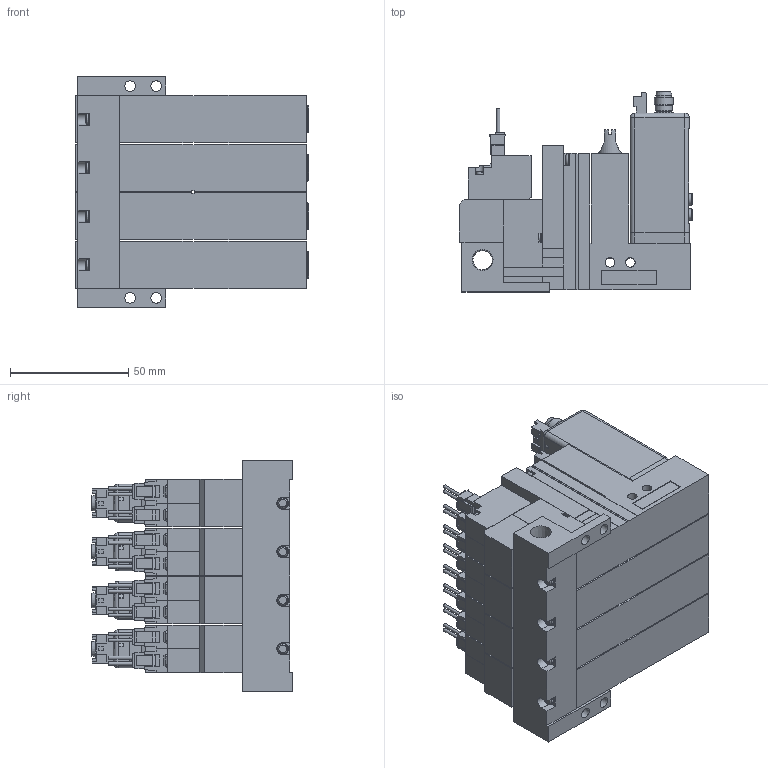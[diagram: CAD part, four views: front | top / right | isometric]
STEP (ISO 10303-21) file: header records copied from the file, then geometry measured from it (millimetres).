
FILE_DESCRIPTION(('STEP AP203'),'1');
FILE_NAME('22_22PLC5BLR404.stp','2025-06-12T03:21:03',(' '),(' '),'Spatial InterOp 3D',' ',' ');
FILE_SCHEMA(('CONFIG_CONTROL_DESIGN'));
Length unit declared in the file: millimetre
Products named in the file (8): BMC22M※※※※22_22PLC5BLR404; Solenoid valve B; Unit LC; Base MR40R; MVS-202
Assembly tree (13 placements, depth 2):
  BMC22M※※※※22_22PLC5BLR404
    Solenoid valve B  x4
    Unit LC  x4
    Base MR40R
    MVS-202
    MVS-202
    MVS-202
    MVS-202
Bounding box: 98.5 x 84.6 x 97.5 mm (x, y, z)
Volume: 436600.5 mm3; surface area: 124828.4 mm2
Topology: 13 solids, 29 shells, 3141 faces, 8191 edges, 5344 vertices
Faces by surface type: plane 2646, cylinder 381, cone 66, torus 32, sphere 16
Full cylindrical faces by diameter (mm): 1 x16, 1.4 x16, 1.5 x4, 2.5 x4, 3 x16, 3.5 x16, 3.6 x4, 4 x8, 4.134 x4, 4.5 x20, 4.8 x12, 5 x8, 5.2 x4, 5.8 x8, 6 x8, 6.5 x12, 6.6 x4, 7 x4, 7.2 x4, 7.9 x4, 8 x8, 8.279 x1
Entity records: 62854 total; most frequent: CARTESIAN_POINT 11355, ORIENTED_EDGE 10292, DIRECTION 10126, EDGE_CURVE 5146, LINE 4350, VECTOR 4350, VERTEX_POINT 3481, AXIS2_PLACEMENT_3D 2888
